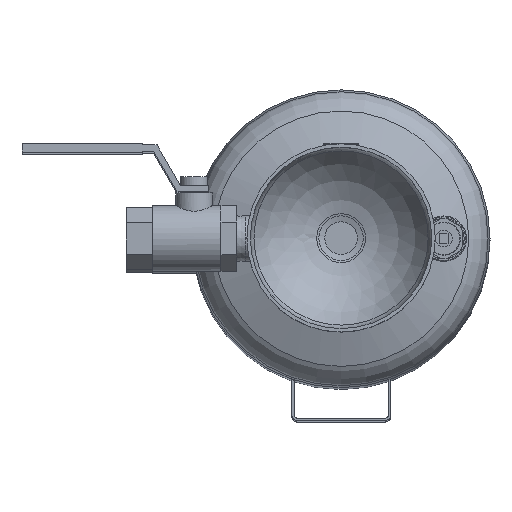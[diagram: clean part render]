
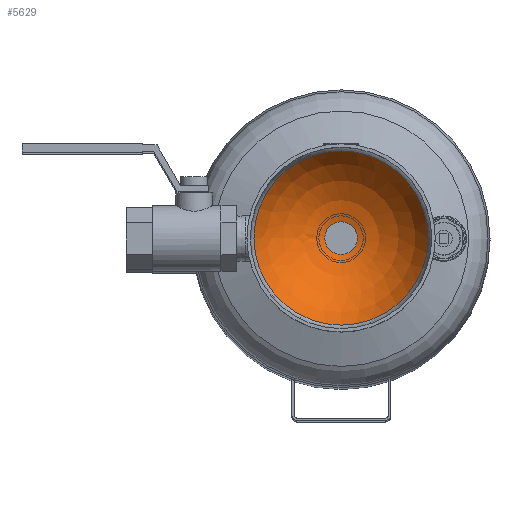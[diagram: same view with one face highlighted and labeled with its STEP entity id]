
A CAD part, top view. The second image highlights one B-rep face of the part: STEP entity #5629.
In plain terms, the highlighted spherical face has radius 57.667 mm.
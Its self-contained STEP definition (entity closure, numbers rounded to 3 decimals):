
#17=SPHERICAL_SURFACE('',#6237,57.667);
#383=CIRCLE('',#6235,50.882);
#384=CIRCLE('',#6236,50.882);
#385=CIRCLE('',#6238,57.667);
#386=CIRCLE('',#6239,9.5);
#387=CIRCLE('',#6240,9.5);
#776=FACE_OUTER_BOUND('',#1141,.T.);
#1141=EDGE_LOOP('',(#4946,#4947,#4948,#4949,#4950,#4951));
#2627=VERTEX_POINT('',#9766);
#2628=VERTEX_POINT('',#9768);
#2629=VERTEX_POINT('',#9772);
#2630=VERTEX_POINT('',#9774);
#3412=EDGE_CURVE('',#2628,#2627,#383,.T.);
#3413=EDGE_CURVE('',#2627,#2628,#384,.T.);
#3414=EDGE_CURVE('',#2627,#2629,#385,.T.);
#3415=EDGE_CURVE('',#2630,#2629,#386,.T.);
#3416=EDGE_CURVE('',#2629,#2630,#387,.T.);
#4946=ORIENTED_EDGE('',*,*,#3412,.T.);
#4947=ORIENTED_EDGE('',*,*,#3414,.T.);
#4948=ORIENTED_EDGE('',*,*,#3415,.F.);
#4949=ORIENTED_EDGE('',*,*,#3416,.F.);
#4950=ORIENTED_EDGE('',*,*,#3414,.F.);
#4951=ORIENTED_EDGE('',*,*,#3413,.T.);
#5629=ADVANCED_FACE('',(#776),#17,.F.);
#6235=AXIS2_PLACEMENT_3D('',#9769,#7890,#7891);
#6236=AXIS2_PLACEMENT_3D('',#9770,#7892,#7893);
#6237=AXIS2_PLACEMENT_3D('',#9771,#7894,#7895);
#6238=AXIS2_PLACEMENT_3D('',#9773,#7896,#7897);
#6239=AXIS2_PLACEMENT_3D('',#9775,#7898,#7899);
#6240=AXIS2_PLACEMENT_3D('',#9776,#7900,#7901);
#7890=DIRECTION('center_axis',(0.,0.,1.));
#7891=DIRECTION('ref_axis',(1.,0.,0.));
#7892=DIRECTION('center_axis',(0.,0.,1.));
#7893=DIRECTION('ref_axis',(1.,0.,0.));
#7894=DIRECTION('center_axis',(0.,0.,1.));
#7895=DIRECTION('ref_axis',(1.,0.,0.));
#7896=DIRECTION('center_axis',(0.,-1.,0.));
#7897=DIRECTION('ref_axis',(-1.,0.,0.));
#7898=DIRECTION('center_axis',(0.,0.,1.));
#7899=DIRECTION('ref_axis',(1.,0.,0.));
#7900=DIRECTION('center_axis',(0.,0.,1.));
#7901=DIRECTION('ref_axis',(1.,0.,0.));
#9766=CARTESIAN_POINT('',(-50.882,0.,1052.992));
#9768=CARTESIAN_POINT('',(50.882,0.,1052.992));
#9769=CARTESIAN_POINT('Origin',(0.,0.,1052.992));
#9770=CARTESIAN_POINT('Origin',(0.,0.,1052.992));
#9771=CARTESIAN_POINT('Origin',(0.,0.,1080.129));
#9772=CARTESIAN_POINT('',(-9.5,0.,1023.251));
#9773=CARTESIAN_POINT('Origin',(0.,0.,1080.129));
#9774=CARTESIAN_POINT('',(9.5,0.,1023.251));
#9775=CARTESIAN_POINT('Origin',(0.,0.,1023.251));
#9776=CARTESIAN_POINT('Origin',(0.,0.,1023.251));
